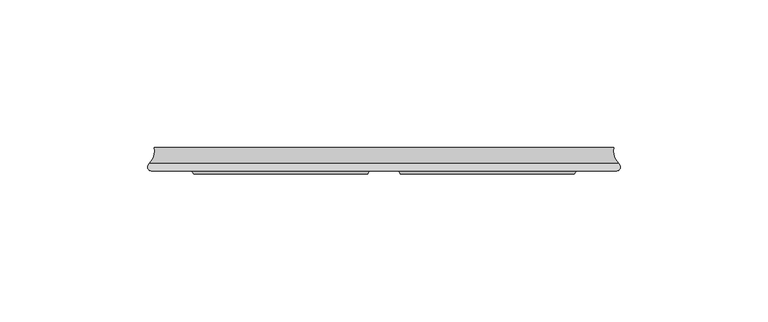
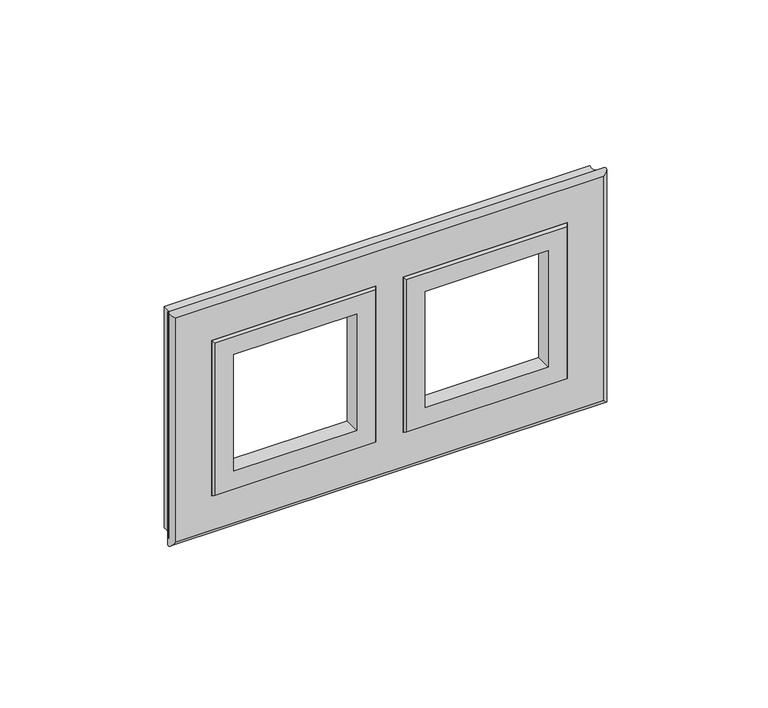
"""IFC4 building model written with IfcOpenShell, lengths in millimetres: proxy geometry."""

from ifc_helpers import new_model, si_unit, frame, origin, place, context, project, spatial, polyline, ellipse_curve, faceted_brep, source, transform, mapped, element, save
from ifc_brep_helpers import plane_surface, cylinder_surface, revolved_surface, advanced_brep


def electrical_fixtures_f4b334c2(model_context):
    return source(origin(), model_context, "Body", "SolidModel", [
        advanced_brep(
        [(78.2959929, -8.0, -43.2959929), (79.5234735, -5.464633, -44.5234735), (79.5234735, -5.464633, 44.5234735), (78.2959929, -8.0, 43.2959929), (77.7730895, 0.0, -42.7730895), (77.7730895, 0.0, 42.7730895), (-79.5234735, -5.464633, 44.5234735), (-78.2959929, -8.0, 43.2959929), (-77.7730895, 0.0, 42.7730895), (-79.5234735, -5.464633, -44.5234735), (-78.2959929, -8.0, -43.2959929), (-77.7730895, 0.0, -42.7730895), (-65.0257192, -8.0, -30.0257192), (-65.0257192, -8.0, 30.0257192), (-4.9742808, -8.0, 30.0257192), (-4.9742808, -8.0, -30.0257192), (65.0257192, -8.0, -30.0257192), (4.9742808, -8.0, -30.0257192), (4.9742808, -8.0, 30.0257192), (65.0257192, -8.0, 30.0257192), (70.5, 0.0, 35.5), (-70.5, 0.0, 35.5), (-70.5, 0.0, -35.5), (70.5, 0.0, -35.5), (70.5, -3.0, -35.5), (70.5, -3.0, 35.5), (-70.5, -3.0, 35.5), (-70.5, -3.0, -35.5), (-65.0257192, -3.0, 30.0257192), (-65.0257192, -3.0, -30.0257192), (-4.9742808, -3.0, -30.0257192), (-4.9742808, -3.0, 30.0257192), (65.0257192, -3.0, 30.0257192), (4.9742808, -3.0, 30.0257192), (4.9742808, -3.0, -30.0257192), (65.0257192, -3.0, -30.0257192)],
        [
            (0, 1, ellipse_curve(frame((78.529603, -6.5482791, -43.529603), z_axis=(0.7071067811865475, 0.0, 0.7071067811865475), x_axis=(0.7071067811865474, 0.0, -0.7071067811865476)), 2.0794554, 1.470397)),
            (1, 2),
            (2, 3, ellipse_curve(frame((78.529603, -6.5482791, 43.529603), z_axis=(0.7071067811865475, 0.0, -0.7071067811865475), x_axis=(-0.7071067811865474, 0.0, -0.7071067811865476)), 2.0794554, 1.470397)),
            (3, 0),
            (1, 4, ellipse_curve(frame((83.4359157, -1.1987829, -48.4359157), z_axis=(-0.7071067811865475, 0.0, -0.7071067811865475), x_axis=(-0.7071067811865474, 0.0, 0.7071067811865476)), 8.1859246, 5.7883228)),
            (4, 5),
            (5, 2, ellipse_curve(frame((83.4359157, -1.1987829, 48.4359157), z_axis=(-0.7071067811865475, 0.0, 0.7071067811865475), x_axis=(0.7071067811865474, 0.0, 0.7071067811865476)), 8.1859246, 5.7883228)),
            (2, 6),
            (6, 7, ellipse_curve(frame((-78.529603, -6.5482791, 43.529603), z_axis=(0.7071067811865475, 0.0, 0.7071067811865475), x_axis=(0.7071067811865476, 0.0, -0.7071067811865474)), 2.0794554, 1.470397)),
            (7, 3),
            (5, 8),
            (8, 6, ellipse_curve(frame((-83.4359157, -1.1987829, 48.4359157), z_axis=(-0.7071067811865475, 0.0, -0.7071067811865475), x_axis=(-0.7071067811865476, 0.0, 0.7071067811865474)), 8.1859246, 5.7883228)),
            (6, 9),
            (9, 10, ellipse_curve(frame((-78.529603, -6.5482791, -43.529603), z_axis=(-0.7071067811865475, 0.0, 0.7071067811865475), x_axis=(0.7071067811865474, 0.0, 0.7071067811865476)), 2.0794554, 1.470397)),
            (10, 7),
            (8, 11),
            (11, 9, ellipse_curve(frame((-83.4359157, -1.1987829, -48.4359157), z_axis=(0.7071067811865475, 0.0, -0.7071067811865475), x_axis=(-0.7071067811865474, 0.0, -0.7071067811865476)), 8.1859246, 5.7883228)),
            (0, 10),
            (9, 1),
            (12, 13),
            (13, 14),
            (14, 15),
            (15, 12),
            (16, 17),
            (17, 18),
            (18, 19),
            (19, 16),
            (4, 11),
            (20, 21),
            (21, 22),
            (22, 23),
            (23, 20),
            (23, 24),
            (24, 25),
            (25, 20),
            (25, 26),
            (26, 21),
            (26, 27),
            (27, 22),
            (24, 27),
            (28, 29),
            (29, 30),
            (30, 31),
            (31, 28),
            (32, 33),
            (33, 34),
            (34, 35),
            (35, 32),
            (19, 32),
            (35, 16),
            (18, 33),
            (13, 28),
            (31, 14),
            (12, 29),
            (34, 17),
            (15, 30),
        ],
        [
            cylinder_surface(frame((78.529603, -6.5482791, -45.0), z_axis=(0.0, 0.0, -1.0), x_axis=(-1.0, 0.0, 0.0)), 1.470397),
            revolved_surface(polyline([(77.64759289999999, -1.1987829, 54.22423849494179), (77.64759289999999, -1.1987829, -54.22423849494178)]), (83.4359157, -1.1987829, -45.0), (0.0, 0.0, 1.0)),
            cylinder_surface(frame((80.0, -6.5482791, 43.529603), z_axis=(1.0, 0.0, 0.0), x_axis=(0.0, 0.0, -1.0)), 1.470397),
            revolved_surface(polyline([(-89.2242384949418, -1.1987829, 42.6475929), (89.22423849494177, -1.1987829, 42.6475929)]), (80.0, -1.1987829, 48.4359157), (-1.0, 0.0, 0.0)),
            cylinder_surface(frame((-78.529603, -6.5482791, 45.0), z_axis=(0.0, 0.0, 1.0), x_axis=(1.0, 0.0, 0.0)), 1.470397),
            revolved_surface(polyline([(-77.64759289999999, -1.1987829, -54.22423849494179), (-77.64759289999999, -1.1987829, 54.22423849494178)]), (-83.4359157, -1.1987829, 45.0), (0.0, 0.0, -1.0)),
            cylinder_surface(frame((-80.0, -6.5482791, -43.529603), z_axis=(-1.0, 0.0, 0.0), x_axis=(0.0, 0.0, 1.0)), 1.470397),
            plane_surface(frame((-78.2959929, -8.0, -43.2959929), z_axis=(0.0, -1.0, 0.0), x_axis=(1.0, 0.0, 0.0))),
            plane_surface(frame((-70.5, 0.0, -35.5), z_axis=(0.0, 1.0, 0.0), x_axis=(1.0, 0.0, 0.0))),
            revolved_surface(polyline([(89.22423849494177, -1.1987829, -42.6475929), (-89.22423849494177, -1.1987829, -42.6475929)]), (-80.0, -1.1987829, -48.4359157), (1.0, 0.0, 0.0)),
            plane_surface(frame((70.5, -3.0, -35.5), z_axis=(-1.0, 0.0, 0.0), x_axis=(0.0, 0.0, 1.0))),
            plane_surface(frame((70.5, -3.0, 35.5), z_axis=(0.0, 0.0, -1.0), x_axis=(-1.0, 0.0, 0.0))),
            plane_surface(frame((-70.5, -3.0, 35.5), z_axis=(1.0, 0.0, 0.0), x_axis=(0.0, 0.0, -1.0))),
            plane_surface(frame((-65.0257192, -3.0, -30.0257192), z_axis=(0.0, 1.0, 0.0), x_axis=(1.0, 0.0, 0.0))),
            plane_surface(frame((-70.5, -3.0, -35.5), z_axis=(0.0, 0.0, 1.0), x_axis=(1.0, 0.0, 0.0))),
            plane_surface(frame((65.0257192, -8.0, -30.0257192), z_axis=(-1.0, 0.0, 0.0), x_axis=(0.0, 0.0, 1.0))),
            plane_surface(frame((65.0257192, -8.0, 30.0257192), z_axis=(0.0, 0.0, -1.0), x_axis=(-1.0, 0.0, 0.0))),
            plane_surface(frame((-65.0257192, -8.0, 30.0257192), z_axis=(1.0, 0.0, 0.0), x_axis=(0.0, 0.0, -1.0))),
            plane_surface(frame((-65.0257192, -8.0, -30.0257192), z_axis=(0.0, 0.0, 1.0), x_axis=(1.0, 0.0, 0.0))),
            plane_surface(frame((-4.9742808, -8.0, 30.0257192), z_axis=(-1.0, 0.0, 0.0), x_axis=(0.0, 1.0, 0.0))),
            plane_surface(frame((4.9742808, -8.0, -30.0257192), z_axis=(1.0, 0.0, 0.0), x_axis=(0.0, 1.0, 0.0))),
        ],
        [
            (0, [[1, 2, 3, 4]]),
            (1, [[-2, 5, 6, 7]]),
            (2, [[-3, 8, 9, 10]]),
            (3, [[-7, 11, 12, -8]]),
            (4, [[-9, 13, 14, 15]]),
            (5, [[-12, 16, 17, -13]]),
            (6, [[-1, 18, -14, 19]]),
            (7, [[-4, -10, -15, -18], [20, 21, 22, 23], [24, 25, 26, 27]]),
            (8, [[-6, 28, -16, -11], [29, 30, 31, 32]]),
            (9, [[-5, -19, -17, -28]]),
            (10, [[-32, 33, 34, 35]]),
            (11, [[-29, -35, 36, 37]]),
            (12, [[-30, -37, 38, 39]]),
            (13, [[-34, 40, -38, -36], [41, 42, 43, 44], [45, 46, 47, 48]]),
            (14, [[-31, -39, -40, -33]]),
            (15, [[-27, 49, -48, 50]]),
            (16, [[-49, -26, 51, -45]]),
            (16, [[52, -44, 53, -21]]),
            (17, [[-20, 54, -41, -52]]),
            (18, [[-50, -47, 55, -24]]),
            (18, [[-54, -23, 56, -42]]),
            (19, [[-22, -53, -43, -56]]),
            (20, [[-25, -55, -46, -51]]),
        ],
    ),
        faceted_brep([(-12.5, -3.0, -22.5), (-12.5, -9.0, -22.5), (-12.5, -9.0, 22.5), (-12.5, -3.0, 22.5), (-4.9742808, -8.0, -30.0257192), (-4.9742808, -3.0, -30.0257192), (-4.9742808, -3.0, 30.0257192), (-4.9742808, -8.0, 30.0257192), (-5.5751414, -9.0, -29.4248586), (-5.5751414, -9.0, 29.4248586), (-57.5, -9.0, 22.5), (-57.5, -3.0, 22.5), (-65.0257192, -3.0, 30.0257192), (-65.0257192, -8.0, 30.0257192), (-64.4248586, -9.0, 29.4248586), (-57.5, -9.0, -22.5), (-57.5, -3.0, -22.5), (-65.0257192, -3.0, -30.0257192), (-65.0257192, -8.0, -30.0257192), (-64.4248586, -9.0, -29.4248586)], [[[0, 1, 2, 3]], [[4, 5, 6, 7]], [[8, 4, 7, 9]], [[3, 2, 10, 11]], [[7, 6, 12, 13]], [[9, 7, 13, 14]], [[11, 10, 15, 16]], [[13, 12, 17, 18]], [[14, 13, 18, 19]], [[9, 14, 19, 8], [1, 15, 10, 2]], [[16, 15, 1, 0]], [[5, 17, 12, 6], [3, 11, 16, 0]], [[18, 17, 5, 4]], [[19, 18, 4, 8]]]),
        faceted_brep([(57.5, -3.0, -22.5), (57.5, -9.0, -22.5), (57.5, -9.0, 22.5), (57.5, -3.0, 22.5), (65.0257192, -8.0, -30.0257192), (65.0257192, -3.0, -30.0257192), (65.0257192, -3.0, 30.0257192), (65.0257192, -8.0, 30.0257192), (64.4248586, -9.0, -29.4248586), (64.4248586, -9.0, 29.4248586), (12.5, -9.0, 22.5), (12.5, -3.0, 22.5), (4.9742808, -3.0, 30.0257192), (4.9742808, -8.0, 30.0257192), (5.5751414, -9.0, 29.4248586), (12.5, -9.0, -22.5), (12.5, -3.0, -22.5), (4.9742808, -3.0, -30.0257192), (4.9742808, -8.0, -30.0257192), (5.5751414, -9.0, -29.4248586)], [[[0, 1, 2, 3]], [[4, 5, 6, 7]], [[8, 4, 7, 9]], [[3, 2, 10, 11]], [[7, 6, 12, 13]], [[9, 7, 13, 14]], [[11, 10, 15, 16]], [[13, 12, 17, 18]], [[14, 13, 18, 19]], [[9, 14, 19, 8], [1, 15, 10, 2]], [[16, 15, 1, 0]], [[5, 17, 12, 6], [3, 11, 16, 0]], [[18, 17, 5, 4]], [[19, 18, 4, 8]]]),
    ])


if __name__ == "__main__":
    model = new_model("IFC4")
    model_context = context("Model", 3, world=origin())
    ifc_project = project(units=[si_unit("LENGTHUNIT", "METRE", prefix="MILLI")], contexts=[model_context])
    site = spatial("IfcSite", under=ifc_project)
    building = spatial("IfcBuilding", under=site)
    placement = place(None, origin())
    electrical_fixtures_shape = electrical_fixtures_f4b334c2(model_context)
    element("IfcBuildingElementProxy", 1, Name="Electrical Fixtures", at=placement, inside=building, context=model_context, shape_type="MappedRepresentation", body=[
        mapped(electrical_fixtures_shape, transform((0.0, 0.0, 0.0), x_axis=(1.0, 0.0, 0.0), y_axis=(0.0, 1.0, 0.0), z_axis=(0.0, 0.0, 1.0))),
    ])
    save(model, "model.ifc")
